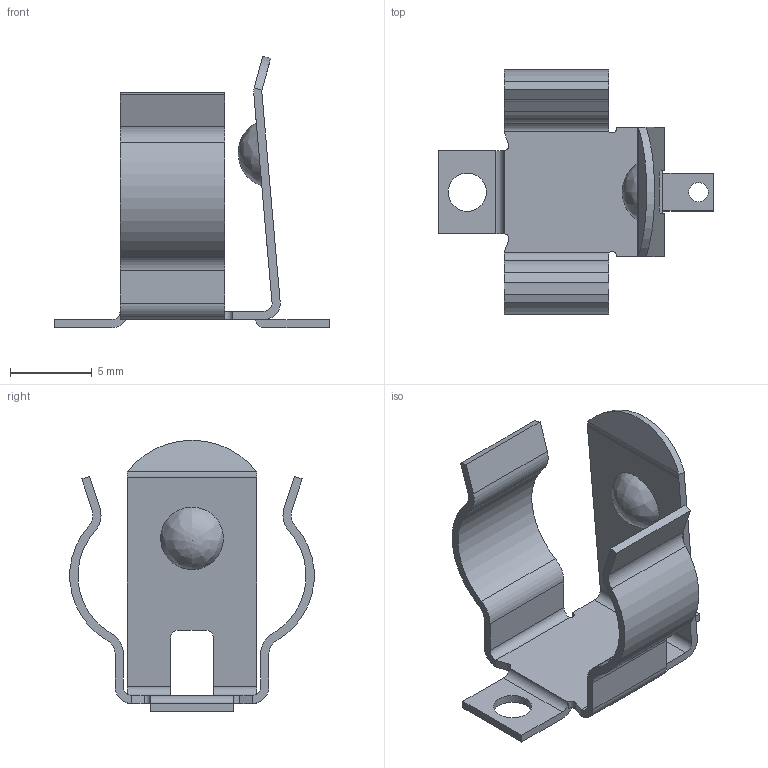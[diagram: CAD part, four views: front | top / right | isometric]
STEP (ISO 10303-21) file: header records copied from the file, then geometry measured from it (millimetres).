
FILE_DESCRIPTION(('FreeCAD Model'),'2;1');
FILE_NAME('Open CASCADE Shape Model','2025-03-04T19:37:30',( 'Krisjanis Rijnieks'),(''),'Open CASCADE STEP processor 7.7', 'FreeCAD','Unknown');
FILE_SCHEMA(('AUTOMOTIVE_DESIGN { 1 0 10303 214 1 1 1 1 }'));
Length unit declared in the file: millimetre
Products named in the file (2): 555; 555_Inner
Assembly tree (1 placements, depth 2):
  555
    555_Inner
Bounding box: 16.8 x 14.94 x 16.61 mm (x, y, z)
Volume: 210.5 mm3; surface area: 896.6 mm2
Topology: 1 solids, 1 shells, 71 faces, 203 edges, 132 vertices
Faces by surface type: plane 37, cylinder 33, bspline 1
Full cylindrical faces by diameter (mm): 1.19 x1, 2.34 x1
Entity records: 2524 total; most frequent: CARTESIAN_POINT 562, DIRECTION 418, ORIENTED_EDGE 404, EDGE_CURVE 202, AXIS2_PLACEMENT_3D 146, VERTEX_POINT 132, LINE 126, VECTOR 126
